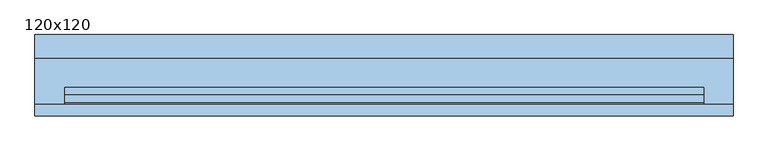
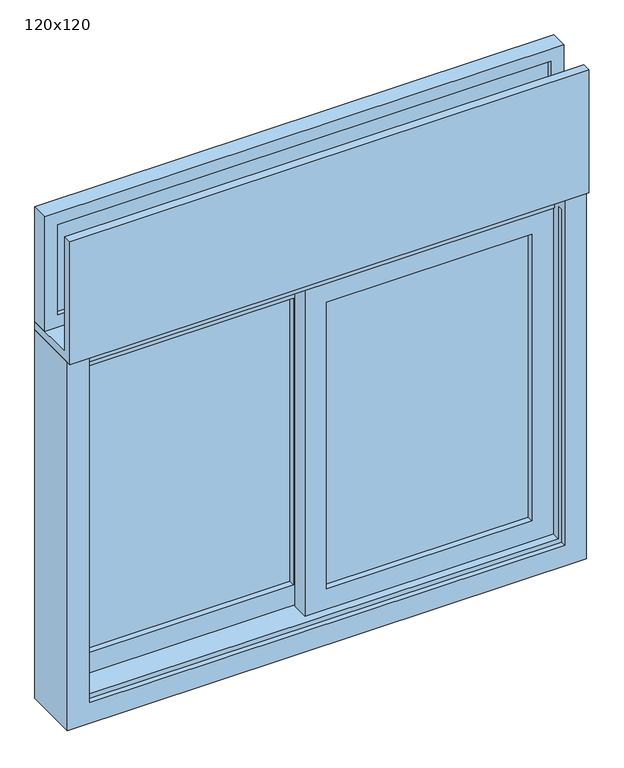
"""IFC4 building model written with IfcOpenShell, lengths in millimetres: window geometry, Veneziana - 2 Painéis : 120x120."""

from ifc_helpers import new_model, si_unit, frame, origin, place, context, project, spatial, polyline, outline, extrude, faceted_brep, source, transform, mapped, element, save


def window_120x120_fed861a7(model_context):
    return source(origin(), model_context, "Body", "SolidModel", [
        faceted_brep([(-550.0, -60.0, 1570.0), (-550.0, -60.0, 1550.0), (-550.0, -20.0, 1550.0), (-550.0, -20.0, 1570.0), (-550.0, -50.0, 1570.0), (550.0, -50.0, 1570.0), (550.0, -20.0, 1570.0), (550.0, -20.0, 1550.0), (550.0, -60.0, 1550.0), (550.0, -60.0, 1570.0), (-600.0, -50.0, 1570.0), (-600.0, 70.0, 1570.0), (-600.0, 70.0, 1550.0), (-600.0, -70.0, 1550.0), (-600.0, -70.0, 1850.0), (-600.0, -50.0, 1850.0), (600.0, -50.0, 1570.0), (600.0, -50.0, 1850.0), (600.0, -70.0, 1850.0), (600.0, -70.0, 1550.0), (600.0, 70.0, 1550.0), (600.0, 70.0, 1570.0)], [[[0, 1, 2, 3, 4]], [[5, 6, 7, 8, 9]], [[9, 8, 1, 0]], [[2, 7, 6, 3]], [[10, 11, 12, 13, 14, 15]], [[16, 17, 18, 19, 20, 21]], [[15, 17, 16, 5, 4, 10]], [[14, 18, 17, 15]], [[13, 19, 18, 14]], [[12, 20, 19, 13], [1, 8, 7, 2]], [[11, 21, 20, 12]], [[10, 4, 3, 6, 5, 16, 21, 11]], [[0, 4, 5, 9]]]),
        extrude(outline(polyline([(-585.0, 70.0), (585.0, 70.0), (585.0, 55.0), (-585.0, 55.0), (-585.0, 70.0)])), frame((0.0, 0.0, 1585.0), z_axis=(0.0, 0.0, 1.0), x_axis=(1.0, 0.0, 0.0)), (0.0, 0.0, 1.0), 250.0),
        faceted_brep([(570.0, 40.0, 1820.0), (570.0, 40.0, 1600.0), (570.0, 30.0, 1600.0), (570.0, 30.0, 1820.0), (585.0, 70.0, 1835.0), (585.0, 70.0, 1585.0), (585.0, 40.0, 1585.0), (585.0, 40.0, 1835.0), (600.0, 30.0, 1850.0), (600.0, 30.0, 1570.0), (600.0, 70.0, 1570.0), (600.0, 70.0, 1850.0), (-570.0, 40.0, 1600.0), (-570.0, 30.0, 1600.0), (-585.0, 70.0, 1585.0), (-585.0, 40.0, 1585.0), (-600.0, 30.0, 1570.0), (-600.0, 70.0, 1570.0), (-570.0, 40.0, 1820.0), (-570.0, 30.0, 1820.0), (-585.0, 70.0, 1835.0), (-585.0, 40.0, 1835.0), (-600.0, 30.0, 1850.0), (-600.0, 70.0, 1850.0)], [[[0, 1, 2, 3]], [[4, 5, 6, 7]], [[8, 9, 10, 11]], [[1, 12, 13, 2]], [[5, 14, 15, 6]], [[9, 16, 17, 10]], [[12, 18, 19, 13]], [[14, 20, 21, 15]], [[16, 22, 23, 17]], [[18, 0, 3, 19]], [[7, 6, 15, 21], [1, 0, 18, 12]], [[20, 4, 7, 21]], [[11, 10, 17, 23], [5, 4, 20, 14]], [[22, 8, 11, 23]], [[9, 8, 22, 16], [3, 2, 13, 19]]]),
        faceted_brep([(550.0, -60.0, 700.0), (550.0, -60.0, 1550.0), (550.0, -20.0, 1550.0), (550.0, -20.0, 1500.0), (550.0, 70.0, 1500.0), (550.0, 70.0, 700.0), (550.0, -33.0, 700.0), (550.0, -33.0, 1512.5), (550.0, -47.0, 1512.5), (550.0, -47.0, 700.0), (-550.0, -47.0, 700.0), (-550.0, -60.0, 700.0), (562.5, -47.0, 1512.5), (562.5, -47.0, 687.5), (-562.5, -47.0, 687.5), (-562.5, -47.0, 1512.5), (-550.0, -47.0, 1512.5), (562.5, -33.0, 1512.5), (-550.0, -33.0, 700.0), (-550.0, -33.0, 1512.5), (-562.5, -33.0, 1512.5), (-562.5, -33.0, 687.5), (562.5, -33.0, 687.5), (-550.0, 70.0, 700.0), (600.0, 70.0, 650.0), (-600.0, 70.0, 650.0), (-600.0, 70.0, 1550.0), (600.0, 70.0, 1550.0), (-550.0, 70.0, 1500.0), (-550.0, -60.0, 1550.0), (-600.0, -60.0, 1550.0), (-600.0, -60.0, 650.0), (600.0, -60.0, 650.0), (600.0, -60.0, 1550.0), (-550.0, -20.0, 1500.0), (-550.0, -20.0, 1550.0)], [[[0, 1, 2, 3, 4, 5, 6, 7, 8, 9]], [[9, 10, 11, 0]], [[8, 12, 13, 14, 15, 16, 10, 9]], [[17, 7, 6, 18, 19, 20, 21, 22]], [[5, 23, 18, 6]], [[24, 25, 26, 27], [4, 28, 23, 5]], [[0, 11, 29, 30, 31, 32, 33, 1]], [[17, 22, 13, 12]], [[22, 21, 14, 13]], [[33, 32, 24, 27]], [[32, 31, 25, 24]], [[10, 16, 19, 18, 23, 28, 34, 35, 29, 11]], [[21, 20, 15, 14]], [[31, 30, 26, 25]], [[34, 3, 2, 35]], [[12, 8, 7, 17]], [[20, 19, 16, 15]], [[4, 3, 34, 28]], [[27, 26, 30, 29, 35, 2, 1, 33]]]),
        extrude(outline(polyline([(0.0, 0.0), (0.0, 10.0), (525.0, 10.0), (525.0, 0.0), (0.0, 0.0)])), frame((0.0, 0.0, 725.0), z_axis=(0.0, 0.0, 1.0), x_axis=(1.0, 0.0, 0.0)), (0.0, 0.0, 1.0), 750.0),
        extrude(outline(polyline([(-525.0, 45.0), (-525.0, 55.0), (0.0, 55.0), (0.0, 45.0), (-525.0, 45.0)])), frame((0.0, 0.0, 725.0), z_axis=(0.0, 0.0, 1.0), x_axis=(1.0, 0.0, 0.0)), (0.0, 0.0, 1.0), 750.0),
        faceted_brep([(500.0, 0.0, 1450.0), (500.0, 0.0, 750.0), (500.0, -15.0, 750.0), (500.0, -15.0, 1450.0), (550.0, -15.0, 700.0), (550.0, -15.0, 1500.0), (-25.0, -15.0, 1500.0), (-25.0, -15.0, 700.0), (25.0, -15.0, 750.0), (25.0, -15.0, 1450.0), (25.0, 0.0, 750.0), (525.0, 0.0, 1475.0), (525.0, 0.0, 725.0), (0.0, 0.0, 725.0), (0.0, 0.0, 1475.0), (25.0, 0.0, 1450.0), (525.0, 10.0, 1475.0), (525.0, 10.0, 725.0), (0.0, 10.0, 725.0), (0.0, 10.0, 1475.0), (500.0, 10.0, 1450.0), (500.0, 10.0, 750.0), (25.0, 10.0, 750.0), (25.0, 10.0, 1450.0), (500.0, 25.0, 1450.0), (500.0, 25.0, 750.0), (25.0, 25.0, 750.0), (550.0, 25.0, 1500.0), (550.0, 25.0, 700.0), (-25.0, 25.0, 700.0), (-25.0, 25.0, 1500.0), (25.0, 25.0, 1450.0)], [[[0, 1, 2, 3]], [[4, 5, 6, 7], [3, 2, 8, 9]], [[1, 10, 8, 2]], [[11, 12, 13, 14], [1, 0, 15, 10]], [[16, 17, 12, 11]], [[17, 18, 13, 12]], [[17, 16, 19, 18], [20, 21, 22, 23]], [[24, 25, 21, 20]], [[25, 26, 22, 21]], [[27, 28, 29, 30], [25, 24, 31, 26]], [[5, 4, 28, 27]], [[4, 7, 29, 28]], [[10, 15, 9, 8]], [[18, 19, 14, 13]], [[26, 31, 23, 22]], [[7, 6, 30, 29]], [[15, 0, 3, 9]], [[19, 16, 11, 14]], [[31, 24, 20, 23]], [[6, 5, 27, 30]]]),
        faceted_brep([(-25.0, 45.0, 1450.0), (-25.0, 45.0, 750.0), (-25.0, 30.0, 750.0), (-25.0, 30.0, 1450.0), (25.0, 30.0, 700.0), (25.0, 30.0, 1500.0), (-550.0, 30.0, 1500.0), (-550.0, 30.0, 700.0), (-500.0, 30.0, 750.0), (-500.0, 30.0, 1450.0), (-500.0, 45.0, 750.0), (0.0, 45.0, 1475.0), (0.0, 45.0, 725.0), (-525.0, 45.0, 725.0), (-525.0, 45.0, 1475.0), (-500.0, 45.0, 1450.0), (0.0, 55.0, 1475.0), (0.0, 55.0, 725.0), (-525.0, 55.0, 725.0), (-525.0, 55.0, 1475.0), (-25.0, 55.0, 1450.0), (-25.0, 55.0, 750.0), (-500.0, 55.0, 750.0), (-500.0, 55.0, 1450.0), (-25.0, 70.0, 1450.0), (-25.0, 70.0, 750.0), (-500.0, 70.0, 750.0), (25.0, 70.0, 1500.0), (25.0, 70.0, 700.0), (-550.0, 70.0, 700.0), (-550.0, 70.0, 1500.0), (-500.0, 70.0, 1450.0)], [[[0, 1, 2, 3]], [[4, 5, 6, 7], [3, 2, 8, 9]], [[1, 10, 8, 2]], [[11, 12, 13, 14], [1, 0, 15, 10]], [[16, 17, 12, 11]], [[17, 18, 13, 12]], [[17, 16, 19, 18], [20, 21, 22, 23]], [[24, 25, 21, 20]], [[25, 26, 22, 21]], [[27, 28, 29, 30], [25, 24, 31, 26]], [[5, 4, 28, 27]], [[4, 7, 29, 28]], [[10, 15, 9, 8]], [[18, 19, 14, 13]], [[26, 31, 23, 22]], [[7, 6, 30, 29]], [[15, 0, 3, 9]], [[19, 16, 11, 14]], [[31, 24, 20, 23]], [[6, 5, 27, 30]]]),
    ])


if __name__ == "__main__":
    model = new_model("IFC4")
    model_context = context("Model", 3, world=origin())
    ifc_project = project(units=[si_unit("LENGTHUNIT", "METRE", prefix="MILLI")], contexts=[model_context])
    site = spatial("IfcSite", under=ifc_project)
    building = spatial("IfcBuilding", under=site)
    placement = place(None, origin())
    window_120x120_shape = window_120x120_fed861a7(model_context)
    element("IfcWindow", 1, ObjectType="Veneziana - 2 Painéis : 120x120", at=placement, inside=building, context=model_context, shape_type="MappedRepresentation", body=[
        mapped(window_120x120_shape, transform((0.0, 0.0, 0.0), x_axis=(1.0, 0.0, 0.0), y_axis=(0.0, 1.0, 0.0), z_axis=(0.0, 0.0, 1.0))),
    ])
    save(model, "model.ifc")
